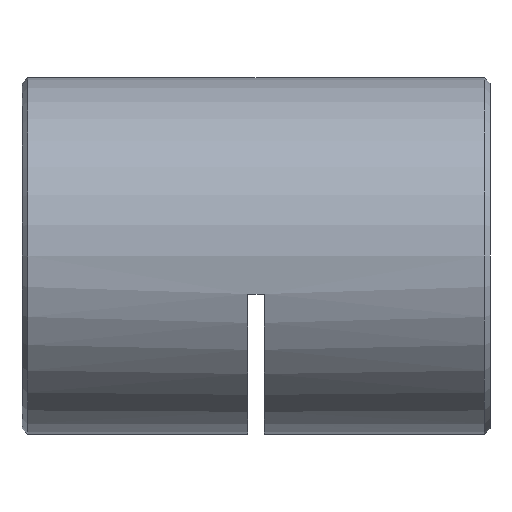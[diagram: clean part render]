
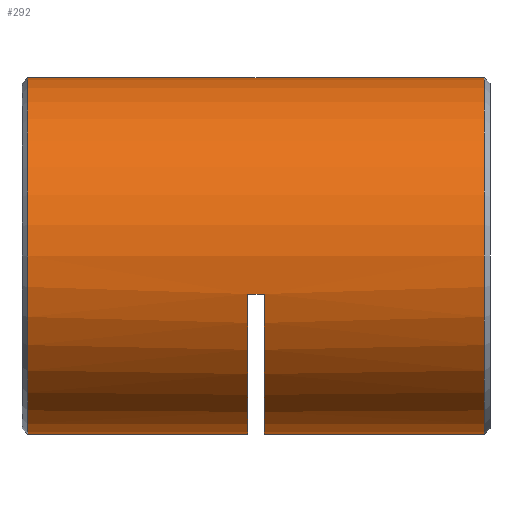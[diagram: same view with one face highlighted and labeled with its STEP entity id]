
A CAD part, left-side view. The second image highlights one B-rep face of the part: STEP entity #292.
In plain terms, the highlighted cylindrical face has radius 16 mm (diameter 32 mm), a partial arc.
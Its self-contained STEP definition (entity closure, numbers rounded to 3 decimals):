
#8 = CARTESIAN_POINT ( 'NONE',  ( 0., 42.5, 0. ) ) ;
#70 = CARTESIAN_POINT ( 'NONE',  ( 0., 20.5, 0. ) ) ;
#131 = CARTESIAN_POINT ( 'NONE',  ( 0., 42.5, 16. ) ) ;
#158 = LINE ( 'NONE', #4009, #3414 ) ;
#262 = CARTESIAN_POINT ( 'NONE',  ( 0., 41.75, 16. ) ) ;
#278 = ORIENTED_EDGE ( 'NONE', *, *, #4081, .T. ) ;
#283 = AXIS2_PLACEMENT_3D ( 'NONE', #8, #1934, #3882 ) ;
#292 = ADVANCED_FACE ( 'NONE', ( #4635 ), #3583, .T. ) ;
#294 = EDGE_CURVE ( 'NONE', #812, #5042, #959, .T. ) ;
#466 = DIRECTION ( 'NONE',  ( 0., -1., 0. ) ) ;
#697 = DIRECTION ( 'NONE',  ( 0., 0., -1. ) ) ;
#804 = VECTOR ( 'NONE', #5411, 1000. ) ;
#812 = VERTEX_POINT ( 'NONE', #5952 ) ;
#959 = LINE ( 'NONE', #1997, #804 ) ;
#1175 = CARTESIAN_POINT ( 'NONE',  ( -15.632, 20.5, -3.413 ) ) ;
#1192 = CARTESIAN_POINT ( 'NONE',  ( 0., 0.75, 16. ) ) ;
#1377 = EDGE_CURVE ( 'NONE', #5345, #2677, #2015, .T. ) ;
#1413 = DIRECTION ( 'NONE',  ( 0., 0., -1. ) ) ;
#1538 = DIRECTION ( 'NONE',  ( 0., -1., 0. ) ) ;
#1574 = EDGE_CURVE ( 'NONE', #3288, #5042, #4086, .T. ) ;
#1652 = ORIENTED_EDGE ( 'NONE', *, *, #294, .T. ) ;
#1671 = ORIENTED_EDGE ( 'NONE', *, *, #3573, .T. ) ;
#1738 = CARTESIAN_POINT ( 'NONE',  ( 0., 22., -16. ) ) ;
#1749 = ORIENTED_EDGE ( 'NONE', *, *, #1797, .F. ) ;
#1797 = EDGE_CURVE ( 'NONE', #2509, #5802, #5151, .T. ) ;
#1871 = CARTESIAN_POINT ( 'NONE',  ( 0., 0.75, -16. ) ) ;
#1934 = DIRECTION ( 'NONE',  ( 0., -1., 0. ) ) ;
#1997 = CARTESIAN_POINT ( 'NONE',  ( 0., 42.5, -16. ) ) ;
#2015 = CIRCLE ( 'NONE', #4290, 16. ) ;
#2036 = CARTESIAN_POINT ( 'NONE',  ( -15.632, 22., -3.413 ) ) ;
#2055 = VERTEX_POINT ( 'NONE', #1871 ) ;
#2509 = VERTEX_POINT ( 'NONE', #262 ) ;
#2677 = VERTEX_POINT ( 'NONE', #5236 ) ;
#2734 = CARTESIAN_POINT ( 'NONE',  ( 0., 22., 0. ) ) ;
#3288 = VERTEX_POINT ( 'NONE', #2036 ) ;
#3337 = DIRECTION ( 'NONE',  ( 0., 0., 1. ) ) ;
#3350 = LINE ( 'NONE', #6209, #4464 ) ;
#3414 = VECTOR ( 'NONE', #1538, 1000. ) ;
#3573 = EDGE_CURVE ( 'NONE', #3288, #5345, #3350, .T. ) ;
#3583 = CYLINDRICAL_SURFACE ( 'NONE', #283, 16. ) ;
#3590 = DIRECTION ( 'NONE',  ( 0., -1., 0. ) ) ;
#3618 = ORIENTED_EDGE ( 'NONE', *, *, #1574, .F. ) ;
#3628 = EDGE_CURVE ( 'NONE', #2509, #812, #5233, .T. ) ;
#3781 = DIRECTION ( 'NONE',  ( 0., -1., 0. ) ) ;
#3882 = DIRECTION ( 'NONE',  ( 0., 0., -1. ) ) ;
#4004 = EDGE_CURVE ( 'NONE', #2055, #5802, #4387, .T. ) ;
#4009 = CARTESIAN_POINT ( 'NONE',  ( 0., 42.5, -16. ) ) ;
#4024 = ORIENTED_EDGE ( 'NONE', *, *, #4004, .T. ) ;
#4081 = EDGE_CURVE ( 'NONE', #2677, #2055, #158, .T. ) ;
#4086 = CIRCLE ( 'NONE', #5539, 16. ) ;
#4290 = AXIS2_PLACEMENT_3D ( 'NONE', #70, #4999, #5046 ) ;
#4387 = CIRCLE ( 'NONE', #4879, 16. ) ;
#4459 = VECTOR ( 'NONE', #3590, 1000. ) ;
#4464 = VECTOR ( 'NONE', #3781, 1000. ) ;
#4635 = FACE_OUTER_BOUND ( 'NONE', #4739, .T. ) ;
#4739 = EDGE_LOOP ( 'NONE', ( #1749, #6182, #1652, #3618, #1671, #6345, #278, #4024 ) ) ;
#4879 = AXIS2_PLACEMENT_3D ( 'NONE', #6263, #6241, #3337 ) ;
#4995 = AXIS2_PLACEMENT_3D ( 'NONE', #5307, #466, #1413 ) ;
#4999 = DIRECTION ( 'NONE',  ( 0., -1., 0. ) ) ;
#5042 = VERTEX_POINT ( 'NONE', #1738 ) ;
#5046 = DIRECTION ( 'NONE',  ( 0., 0., -1. ) ) ;
#5151 = LINE ( 'NONE', #131, #4459 ) ;
#5233 = CIRCLE ( 'NONE', #4995, 16. ) ;
#5236 = CARTESIAN_POINT ( 'NONE',  ( 0., 20.5, -16. ) ) ;
#5307 = CARTESIAN_POINT ( 'NONE',  ( 0., 41.75, 0. ) ) ;
#5345 = VERTEX_POINT ( 'NONE', #1175 ) ;
#5411 = DIRECTION ( 'NONE',  ( 0., -1., 0. ) ) ;
#5539 = AXIS2_PLACEMENT_3D ( 'NONE', #2734, #5606, #697 ) ;
#5606 = DIRECTION ( 'NONE',  ( 0., -1., 0. ) ) ;
#5802 = VERTEX_POINT ( 'NONE', #1192 ) ;
#5952 = CARTESIAN_POINT ( 'NONE',  ( 0., 41.75, -16. ) ) ;
#6182 = ORIENTED_EDGE ( 'NONE', *, *, #3628, .T. ) ;
#6209 = CARTESIAN_POINT ( 'NONE',  ( -15.632, 21.25, -3.413 ) ) ;
#6241 = DIRECTION ( 'NONE',  ( 0., 1., 0. ) ) ;
#6263 = CARTESIAN_POINT ( 'NONE',  ( 0., 0.75, 0. ) ) ;
#6345 = ORIENTED_EDGE ( 'NONE', *, *, #1377, .T. ) ;
